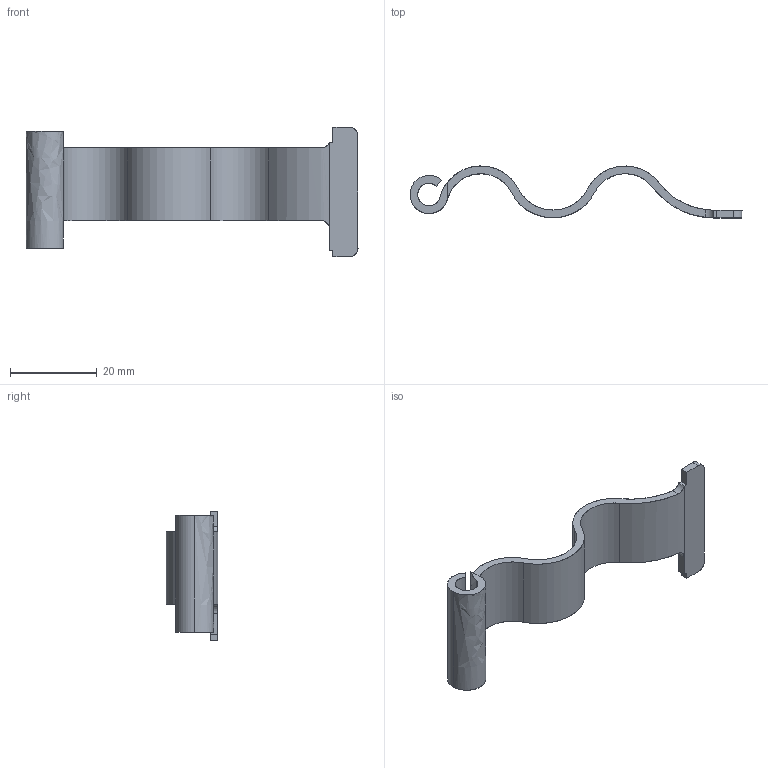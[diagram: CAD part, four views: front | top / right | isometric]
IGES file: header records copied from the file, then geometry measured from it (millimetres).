
Start section: SolidWorks IGES FILE using analytic representation for surfaces
Global section: file name: C:\Documents and Settings\lecoutey\Bureau\GP 47\48.061.10.IGS; native system: SolidWorks 2004 by SolidWorks Corporation; preprocessor: Version 5.3; author: lecoutey; date: 050329.145444; units: millimetre
Bounding box: 76.76 x 12 x 30 mm (x, y, z)
Surface area: 4498.6 mm2 (no closed solid volume)
Topology: 0 solids, 0 shells, 33 faces, 556 edges, 556 vertices
Faces by surface type: bspline 17, revolution 16
